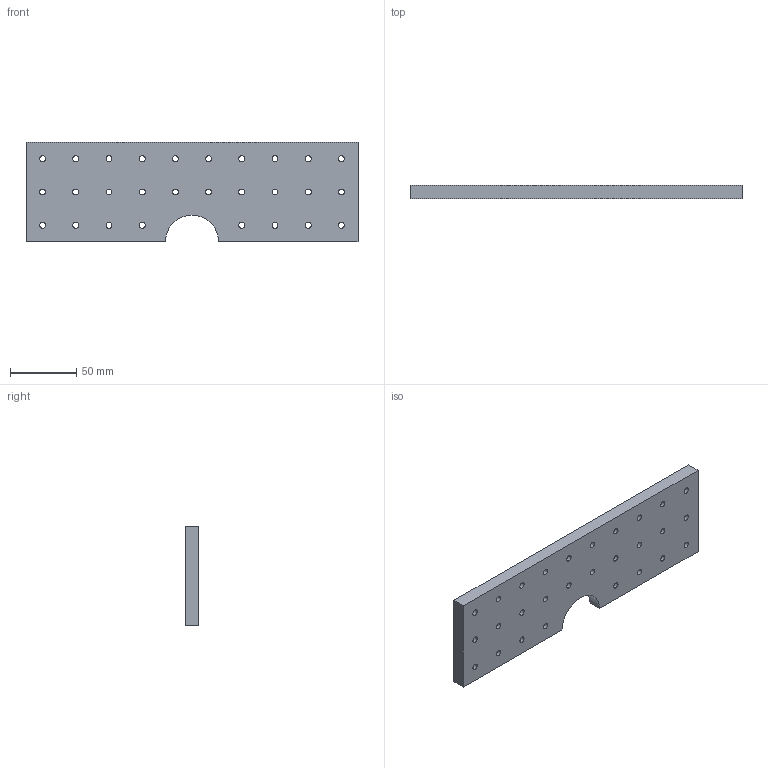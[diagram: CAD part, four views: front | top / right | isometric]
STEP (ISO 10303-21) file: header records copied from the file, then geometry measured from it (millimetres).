
FILE_DESCRIPTION(/* description */ (''),/* implementation_level */ '2;1');
FILE_NAME(/* name */ 'c-10x6-d20.stp',/* time_stamp */ '2026-04-10T10:00:55+08:00',/* author */ ('32769'),/* organization */ (''),/* preprocessor_version */ 'ST-DEVELOPER v20',/* originating_system */ 'Autodesk Inventor 2025',/* authorisation */ '');
FILE_SCHEMA (('AUTOMOTIVE_DESIGN { 1 0 10303 214 3 1 1 }'));
Length unit declared in the file: millimetre
Products named in the file (1): c-10x12-d20
Bounding box: 250 x 10 x 75 mm (x, y, z)
Volume: 176763.6 mm3; surface area: 46039.4 mm2
Topology: 1 solids, 1 shells, 36 faces, 102 edges, 68 vertices
Faces by surface type: cylinder 29, plane 7
Full cylindrical faces by diameter (mm): 4.5 x28
Entity records: 1359 total; most frequent: DIRECTION 234, CARTESIAN_POINT 207, ORIENTED_EDGE 204, EDGE_CURVE 102, AXIS2_PLACEMENT_3D 95, EDGE_LOOP 92, VERTEX_POINT 68, CIRCLE 58
